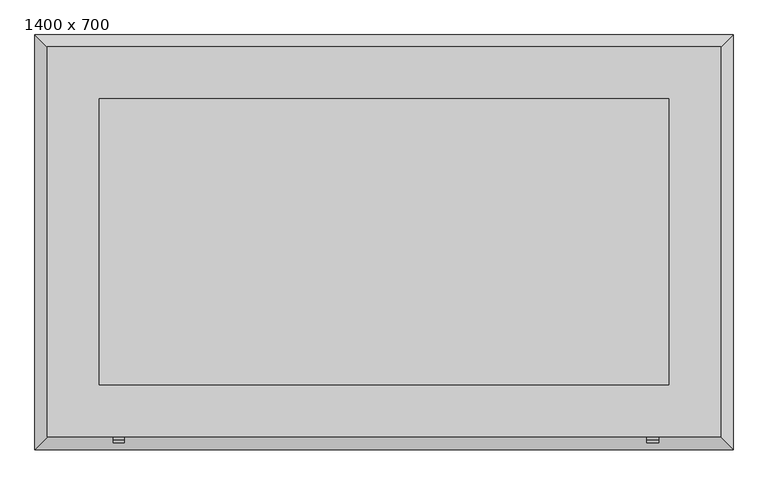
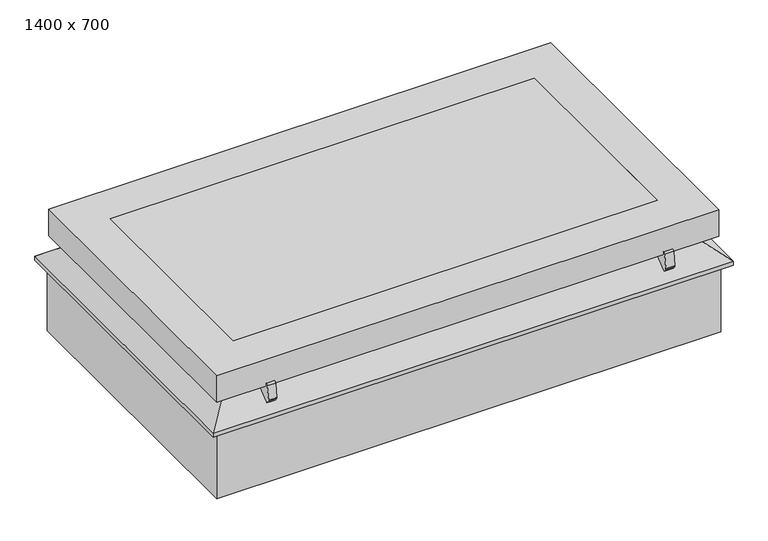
"""IFC4 building model written with IfcOpenShell, lengths in millimetres: proxy geometry, 3_Topaccess_dakluik_1400x700_Staka : 1400 x 700."""

from ifc_helpers import new_model, si_unit, point, frame, frame_2d, origin, place, context, project, spatial, polyline, circle_curve, trimmed, segment, composite_curve, outline, extrude, faceted_brep, source, transform, mapped, element, save


def proxy_1400_x_700_b05f2fe0(model_context):
    return source(origin(), model_context, "Body", "SolidModel", [
        extrude(outline(composite_curve([segment(polyline([(-337.9796219, 326.3276635), (-304.1131378, 313.8268133), (-350.9652664, 276.3451105), (-360.9083022, 288.7739053)]), True, "CONTINUOUS"), segment(trimmed(circle_curve(frame_2d((-355.6020334, 290.8827554)), 5.7099682), [point((-360.9083022, 288.7739053))], [point((-361.2421664, 291.7730571))], False, "CARTESIAN"), True, "CONTINUOUS"), segment(polyline([(-361.2421664, 291.7730571), (-353.9328322, 338.0782805)]), True, "CONTINUOUS"), segment(trimmed(circle_curve(frame_2d((-347.7421268, 335.4312659)), 6.7328687), [point((-353.9328322, 338.0782805))], [point((-341.0984298, 334.3391069))], False, "CARTESIAN"), True, "CONTINUOUS"), segment(trimmed(circle_curve(frame_2d((-332.7673504, 332.9695587)), 8.4428992), [point((-341.0984298, 334.3391069))], [point((-337.9796219, 326.3276635))], True, "CARTESIAN"), True, "CONTINUOUS")], self_intersect=False)), frame((-1499.5746478, 0.0, 0.0), z_axis=(1.0, 0.0, 0.0), x_axis=(0.0, 1.0, 0.0)), (0.0, 0.0, 1.0), 27.3677514),
        extrude(outline(composite_curve([segment(polyline([(-337.9796219, 326.3276635), (-304.1131378, 313.8268133), (-350.9652664, 276.3451105), (-360.9083022, 288.7739053)]), True, "CONTINUOUS"), segment(trimmed(circle_curve(frame_2d((-355.6020334, 290.8827554)), 5.7099682), [point((-360.9083022, 288.7739053))], [point((-361.2421664, 291.7730571))], False, "CARTESIAN"), True, "CONTINUOUS"), segment(polyline([(-361.2421664, 291.7730571), (-353.9328322, 338.0782805)]), True, "CONTINUOUS"), segment(trimmed(circle_curve(frame_2d((-347.7421268, 335.4312659)), 6.7328687), [point((-353.9328322, 338.0782805))], [point((-341.0984298, 334.3391069))], False, "CARTESIAN"), True, "CONTINUOUS"), segment(trimmed(circle_curve(frame_2d((-332.7673504, 332.9695587)), 8.4428992), [point((-341.0984298, 334.3391069))], [point((-337.9796219, 326.3276635))], True, "CARTESIAN"), True, "CONTINUOUS")], self_intersect=False)), frame((-182.3370746, 0.0, 0.0), z_axis=(1.0, 0.0, 0.0), x_axis=(0.0, 1.0, 0.0)), (0.0, 0.0, 1.0), 29.9861856),
        faceted_brep([(-61.2697623, 553.4470955, 328.0), (30.7302377, 645.4470955, 254.4), (-1693.2697623, 645.4470955, 254.4), (-1601.2697623, 553.4470955, 328.0), (-105.2697623, 509.4470955, 282.0), (-85.7439208, 528.9729371, 328.0), (-1576.7956039, 528.9729371, 328.0), (-1557.2697623, 509.4470955, 282.0), (-131.2697623, 483.4470955, 0.0), (-131.2697623, 483.4470955, 282.0), (-1531.2697623, 483.4470955, 282.0), (-1531.2697623, 483.4470955, 0.0), (4.7302377, 619.4470955, 240.0), (4.7302377, 619.4470955, 0.0), (-1667.2697623, 619.4470955, 0.0), (-1667.2697623, 619.4470955, 240.0), (30.7302377, 645.4470955, 240.0), (-1693.2697623, 645.4470955, 240.0), (-1693.2697623, -378.5529045, 254.4), (-1601.2697623, -286.5529045, 328.0), (-1576.7956039, -262.078746, 328.0), (-1557.2697623, -242.5529045, 282.0), (-1531.2697623, -216.5529045, 282.0), (-1531.2697623, -216.5529045, 0.0), (-1667.2697623, -352.5529045, 0.0), (-1667.2697623, -352.5529045, 240.0), (-1693.2697623, -378.5529045, 240.0), (30.7302377, -378.5529045, 254.4), (-61.2697623, -286.5529045, 328.0), (-85.7439208, -262.078746, 328.0), (-105.2697623, -242.5529045, 282.0), (-131.2697623, -216.5529045, 282.0), (-131.2697623, -216.5529045, 0.0), (4.7302377, -352.5529045, 0.0), (4.7302377, -352.5529045, 240.0), (30.7302377, -378.5529045, 240.0)], [[[0, 1, 2, 3]], [[4, 5, 6, 7]], [[8, 9, 10, 11]], [[12, 13, 14, 15]], [[1, 16, 17, 2]], [[3, 2, 18, 19]], [[7, 6, 20, 21]], [[11, 10, 22, 23]], [[15, 14, 24, 25]], [[2, 17, 26, 18]], [[19, 18, 27, 28]], [[21, 20, 29, 30]], [[23, 22, 31, 32]], [[25, 24, 33, 34]], [[18, 26, 35, 27]], [[28, 27, 1, 0]], [[3, 19, 28, 0], [5, 29, 20, 6]], [[30, 29, 5, 4]], [[7, 21, 30, 4], [9, 31, 22, 10]], [[32, 31, 9, 8]], [[13, 33, 24, 14], [11, 23, 32, 8]], [[34, 33, 13, 12]], [[16, 35, 26, 17], [15, 25, 34, 12]], [[27, 35, 16, 1]]]),
        extrude(outline(polyline([(-1534.2669339, 487.5846734), (-128.2725908, 487.5846734), (-128.2725908, -218.4153266), (-1534.2669339, -218.4153266), (-1534.2669339, 487.5846734)])), frame((0.0, 0.0, 287.0), z_axis=(0.0, 0.0, 1.0), x_axis=(1.0, 0.0, 0.0)), (0.0, 0.0, 1.0), 139.4),
        faceted_brep([(-128.2725908, 487.5846734, 287.0), (-128.2725908, 487.5846734, 426.4), (-1534.2669339, 487.5846734, 426.4), (-1534.2669339, 487.5846734, 287.0), (-85.2725908, 530.5846734, 333.4), (-102.8725908, 512.9846734, 287.0), (-1559.6669339, 512.9846734, 287.0), (-1577.2669339, 530.5846734, 333.4), (0.7274092, 616.5846734, 426.4), (0.7274092, 616.5846734, 333.4), (-1663.2669339, 616.5846734, 333.4), (-1663.2669339, 616.5846734, 426.4), (-1534.2669339, -218.4153266, 426.4), (-1534.2669339, -218.4153266, 287.0), (-1559.6669339, -243.8153266, 287.0), (-1577.2669339, -261.4153266, 333.4), (-1663.2669339, -347.4153266, 333.4), (-1663.2669339, -347.4153266, 426.4), (-128.2725908, -218.4153266, 426.4), (-128.2725908, -218.4153266, 287.0), (-102.8725908, -243.8153266, 287.0), (-85.2725908, -261.4153266, 333.4), (0.7274092, -347.4153266, 333.4), (0.7274092, -347.4153266, 426.4)], [[[0, 1, 2, 3]], [[4, 5, 6, 7]], [[8, 9, 10, 11]], [[3, 2, 12, 13]], [[7, 6, 14, 15]], [[11, 10, 16, 17]], [[13, 12, 18, 19]], [[15, 14, 20, 21]], [[17, 16, 22, 23]], [[19, 18, 1, 0]], [[5, 20, 14, 6], [3, 13, 19, 0]], [[21, 20, 5, 4]], [[9, 22, 16, 10], [7, 15, 21, 4]], [[23, 22, 9, 8]], [[11, 17, 23, 8], [1, 18, 12, 2]]]),
    ])


if __name__ == "__main__":
    model = new_model("IFC4")
    model_context = context("Model", 3, world=origin())
    ifc_project = project(units=[si_unit("LENGTHUNIT", "METRE", prefix="MILLI")], contexts=[model_context])
    site = spatial("IfcSite", under=ifc_project)
    building = spatial("IfcBuilding", under=site)
    placement = place(None, origin())
    proxy_1400_x_700_shape = proxy_1400_x_700_b05f2fe0(model_context)
    element("IfcBuildingElementProxy", 1, Name="3_Topaccess_dakluik_1400x700_Staka : 1400 x 700", ObjectType="3_Topaccess_dakluik_1400x700_Staka : 1400 x 700", at=placement, inside=building, context=model_context, shape_type="MappedRepresentation", body=[
        mapped(proxy_1400_x_700_shape, transform((0.0, 0.0, 0.0), x_axis=(1.0, 0.0, 0.0), y_axis=(0.0, 1.0, 0.0), z_axis=(0.0, 0.0, 1.0))),
    ])
    save(model, "model.ifc")
